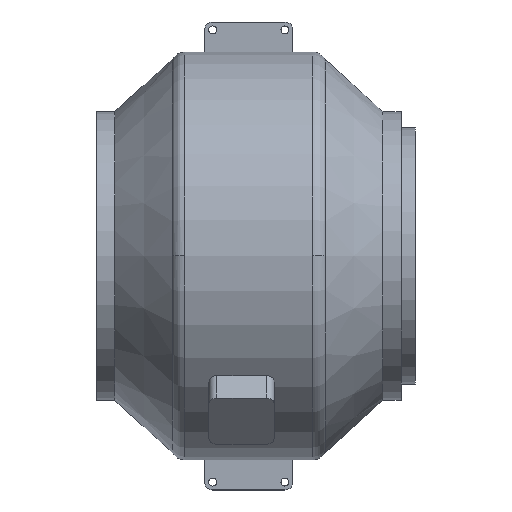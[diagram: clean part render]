
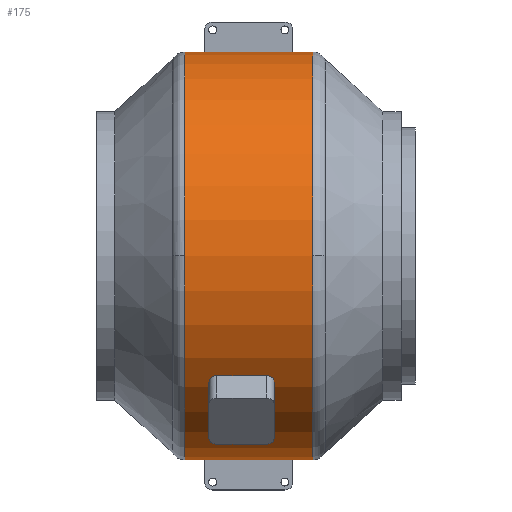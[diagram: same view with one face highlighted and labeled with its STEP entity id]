
A CAD part, top view. The second image highlights one B-rep face of the part: STEP entity #175.
In plain terms, the highlighted cylindrical face has radius 282 mm (diameter 564 mm), a partial arc.
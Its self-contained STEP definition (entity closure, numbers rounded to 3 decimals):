
#175=ADVANCED_FACE('',(#471),#472,.T.);
#471=FACE_OUTER_BOUND('',#931,.T.);
#472=CYLINDRICAL_SURFACE('',#932,282.0);
#931=EDGE_LOOP('',(#1422,#1423,#1424,#1425,#1426,#1427,#1428,#1429,#1430,#1431,#1432,#1433,#1434,#1435));
#932=AXIS2_PLACEMENT_3D('',#1436,#1437,#1438);
#1422=ORIENTED_EDGE('',*,*,#2679,.F.);
#1423=ORIENTED_EDGE('',*,*,#2667,.T.);
#1424=ORIENTED_EDGE('',*,*,#2680,.T.);
#1425=ORIENTED_EDGE('',*,*,#2681,.F.);
#1426=ORIENTED_EDGE('',*,*,#2682,.T.);
#1427=ORIENTED_EDGE('',*,*,#2683,.T.);
#1428=ORIENTED_EDGE('',*,*,#2684,.T.);
#1429=ORIENTED_EDGE('',*,*,#2685,.F.);
#1430=ORIENTED_EDGE('',*,*,#2686,.F.);
#1431=ORIENTED_EDGE('',*,*,#2659,.F.);
#1432=ORIENTED_EDGE('',*,*,#2687,.F.);
#1433=ORIENTED_EDGE('',*,*,#2688,.T.);
#1434=ORIENTED_EDGE('',*,*,#2689,.T.);
#1435=ORIENTED_EDGE('',*,*,#2690,.T.);
#1436=CARTESIAN_POINT('',(-10.0,0.0,0.0));
#1437=DIRECTION('',(-1.0,0.0,0.0));
#1438=DIRECTION('',(0.0,1.0,0.0));
#2659=EDGE_CURVE('',#3177,#3179,#3180,.T.);
#2667=EDGE_CURVE('',#3193,#3191,#3194,.T.);
#2679=EDGE_CURVE('',#3193,#3211,#3212,.T.);
#2680=EDGE_CURVE('',#3191,#3213,#3214,.T.);
#2681=EDGE_CURVE('',#3215,#3213,#3216,.T.);
#2682=EDGE_CURVE('',#3215,#3217,#3218,.T.);
#2683=EDGE_CURVE('',#3217,#3219,#3220,.T.);
#2684=EDGE_CURVE('',#3219,#3221,#3222,.T.);
#2685=EDGE_CURVE('',#3223,#3221,#3224,.T.);
#2686=EDGE_CURVE('',#3179,#3223,#3225,.T.);
#2687=EDGE_CURVE('',#3226,#3177,#3227,.T.);
#2688=EDGE_CURVE('',#3226,#3228,#3229,.T.);
#2689=EDGE_CURVE('',#3228,#3230,#3231,.T.);
#2690=EDGE_CURVE('',#3230,#3211,#3232,.T.);
#3177=VERTEX_POINT('',#3933);
#3179=VERTEX_POINT('',#3935);
#3180=CIRCLE('',#3936,282.0);
#3191=VERTEX_POINT('',#3947);
#3193=VERTEX_POINT('',#3949);
#3194=CIRCLE('',#3950,282.0);
#3211=VERTEX_POINT('',#3971);
#3212=LINE('',#3972,#3973);
#3213=VERTEX_POINT('',#3974);
#3214=CIRCLE('',#3975,282.0);
#3215=VERTEX_POINT('',#3976);
#3216=LINE('',#3977,#3978);
#3217=VERTEX_POINT('',#3979);
#3218=CIRCLE('',#3980,282.0);
#3219=VERTEX_POINT('',#3981);
#3220=LINE('',#3982,#3983);
#3221=VERTEX_POINT('',#3984);
#3222=CIRCLE('',#3985,282.0);
#3223=VERTEX_POINT('',#3986);
#3224=LINE('',#3987,#3988);
#3225=CIRCLE('',#3989,282.0);
#3226=VERTEX_POINT('',#3990);
#3227=LINE('',#3991,#3992);
#3228=VERTEX_POINT('',#3993);
#3229=CIRCLE('',#3994,282.0);
#3230=VERTEX_POINT('',#3995);
#3231=LINE('',#3996,#3997);
#3232=CIRCLE('',#3998,282.0);
#3933=CARTESIAN_POINT('',(78.2,282.0,0.0));
#3935=CARTESIAN_POINT('',(78.2,0.,282.0));
#3936=AXIS2_PLACEMENT_3D('',#5256,#5257,#5258);
#3947=CARTESIAN_POINT('',(-98.2,0.,282.0));
#3949=CARTESIAN_POINT('',(-98.2,282.0,0.0));
#3950=AXIS2_PLACEMENT_3D('',#5277,#5278,#5279);
#3971=CARTESIAN_POINT('',(-71.0,282.0,0.));
#3972=CARTESIAN_POINT('',(-10.0,282.0,0.));
#3973=VECTOR('',#5296,1.0);
#3974=CARTESIAN_POINT('',(-98.2,-282.0,0.));
#3975=AXIS2_PLACEMENT_3D('',#5297,#5298,#5299);
#3976=CARTESIAN_POINT('',(-71.0,-282.0,0.));
#3977=CARTESIAN_POINT('',(-10.0,-282.0,0.));
#3978=VECTOR('',#5300,1.0);
#3979=CARTESIAN_POINT('',(-71.,-281.989,2.5));
#3980=AXIS2_PLACEMENT_3D('',#5301,#5302,#5303);
#3981=CARTESIAN_POINT('',(51.0,-281.989,2.5));
#3982=CARTESIAN_POINT('',(-10.0,-281.989,2.5));
#3983=VECTOR('',#5304,1.0);
#3984=CARTESIAN_POINT('',(51.0,-282.0,0.));
#3985=AXIS2_PLACEMENT_3D('',#5305,#5306,#5307);
#3986=CARTESIAN_POINT('',(78.2,-282.0,0.));
#3987=CARTESIAN_POINT('',(-10.0,-282.0,0.));
#3988=VECTOR('',#5308,1.0);
#3989=AXIS2_PLACEMENT_3D('',#5309,#5310,#5311);
#3990=CARTESIAN_POINT('',(51.0,282.0,0.));
#3991=CARTESIAN_POINT('',(-10.0,282.0,0.));
#3992=VECTOR('',#5312,1.0);
#3993=CARTESIAN_POINT('',(51.0,281.989,2.5));
#3994=AXIS2_PLACEMENT_3D('',#5313,#5314,#5315);
#3995=CARTESIAN_POINT('',(-71.0,281.989,2.5));
#3996=CARTESIAN_POINT('',(-10.0,281.989,2.5));
#3997=VECTOR('',#5316,1.0);
#3998=AXIS2_PLACEMENT_3D('',#5317,#5318,#5319);
#5256=CARTESIAN_POINT('',(78.2,0.0,0.0));
#5257=DIRECTION('',(1.0,0.0,0.0));
#5258=DIRECTION('',(0.0,1.0,0.0));
#5277=CARTESIAN_POINT('',(-98.2,0.0,0.0));
#5278=DIRECTION('',(1.0,0.0,0.0));
#5279=DIRECTION('',(0.0,1.0,0.0));
#5296=DIRECTION('',(1.0,0.0,0.0));
#5297=CARTESIAN_POINT('',(-98.2,0.0,0.0));
#5298=DIRECTION('',(1.0,0.0,0.0));
#5299=DIRECTION('',(0.0,1.0,0.0));
#5300=DIRECTION('',(-1.0,-0.0,-0.0));
#5301=CARTESIAN_POINT('',(-71.0,0.0,0.0));
#5302=DIRECTION('',(-1.0,0.,0.0));
#5303=DIRECTION('',(0.,1.0,0.0));
#5304=DIRECTION('',(1.0,0.0,0.0));
#5305=CARTESIAN_POINT('',(51.0,0.0,0.0));
#5306=DIRECTION('',(1.0,0.,0.0));
#5307=DIRECTION('',(0.,1.0,0.0));
#5308=DIRECTION('',(-1.0,-0.0,-0.0));
#5309=CARTESIAN_POINT('',(78.2,0.0,0.0));
#5310=DIRECTION('',(1.0,0.0,0.0));
#5311=DIRECTION('',(0.0,1.0,0.0));
#5312=DIRECTION('',(1.0,0.0,0.0));
#5313=CARTESIAN_POINT('',(51.0,0.0,0.0));
#5314=DIRECTION('',(1.0,0.,0.0));
#5315=DIRECTION('',(0.,1.0,0.0));
#5316=DIRECTION('',(-1.0,-0.0,-0.0));
#5317=CARTESIAN_POINT('',(-71.0,0.0,0.0));
#5318=DIRECTION('',(-1.0,0.,0.0));
#5319=DIRECTION('',(0.,1.0,0.0));
